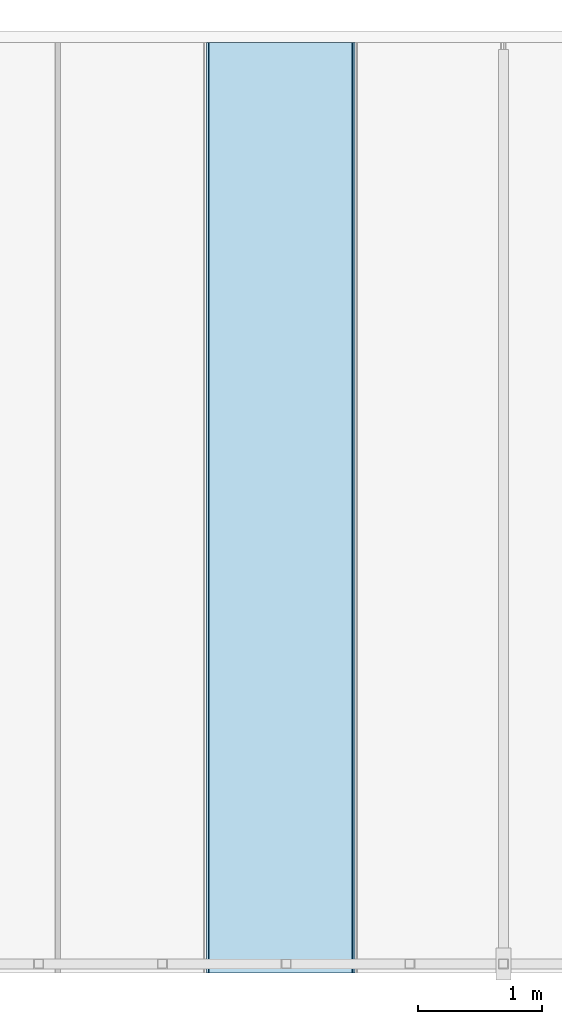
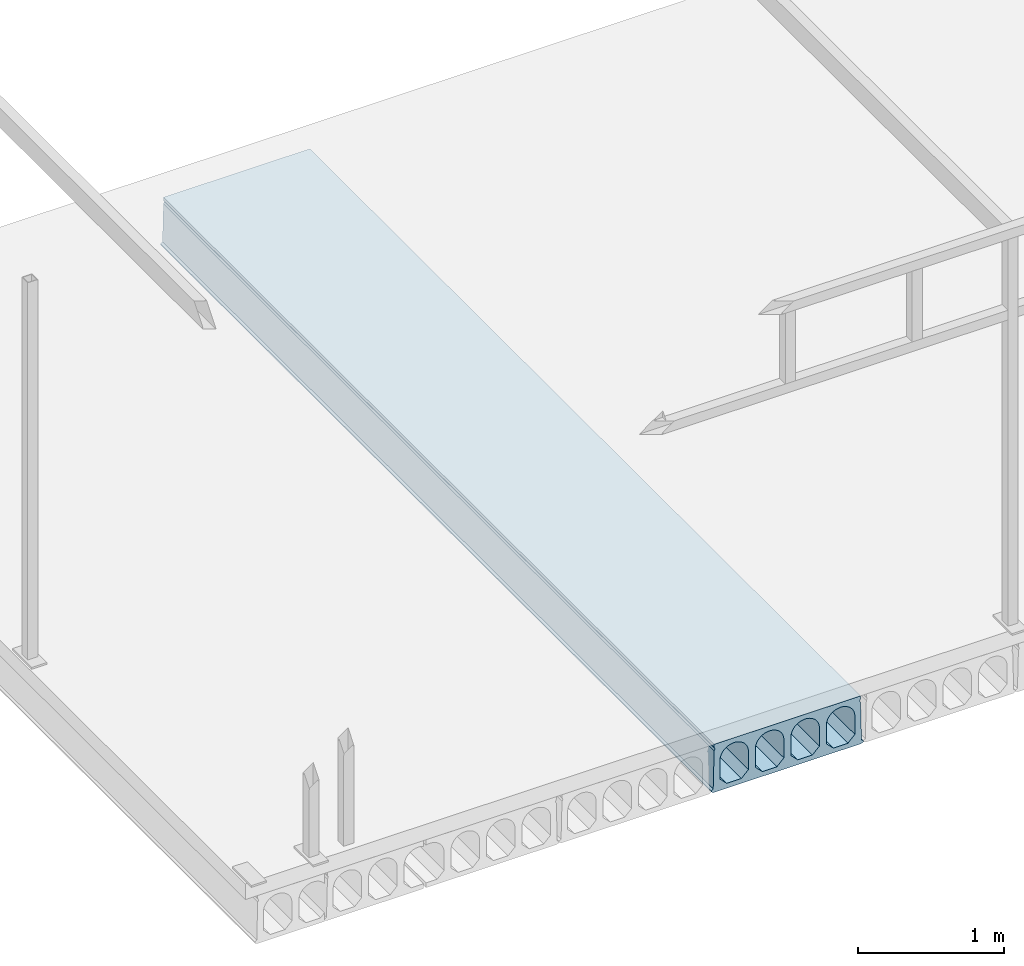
# One storey, part 9 of 20: 1 slab.
"""IFC2X3 building model written with IfcOpenShell, lengths in millimetres."""

from ifc_helpers import new_model, entity, si_unit, converted_unit, derived_unit, direction, frame, origin_with_axes, place, context, subcontext, project, spatial, faceted_brep, type_object, element, save


model = new_model("IFC2X3")

# Units and contexts
model_context = context("Model", 3, precision=0.01, world=frame((0.0, 4.29681676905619e-09, 0.0)), true_north=direction((4.01073788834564e-13, 1.0)))
plan_context = context("Plan", 3, precision=0.01, world=frame((0.0, 4.29681676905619e-09, 0.0)), true_north=direction((4.01073788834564e-13, 1.0)))
body_context = subcontext(model_context, "Body", "Model", "MODEL_VIEW")
ifc_project = project(units=[converted_unit("PLANEANGLEUNIT", "DEGREE", entity("IfcPositiveLengthMeasure", 0.0174532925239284), si_unit("PLANEANGLEUNIT", "RADIAN"), dimensions=[0, 0, 0, 0, 0, 0, 0]), si_unit("AREAUNIT", "SQUARE_METRE"), si_unit("LENGTHUNIT", "METRE", prefix="MILLI"), si_unit("MASSUNIT", "GRAM", prefix="KILO"), si_unit("POWERUNIT", "WATT"), si_unit("PRESSUREUNIT", "PASCAL", prefix="KILO"), si_unit("FORCEUNIT", "NEWTON", prefix="KILO"), si_unit("ELECTRICVOLTAGEUNIT", "VOLT"), si_unit("ELECTRICCURRENTUNIT", "AMPERE"), si_unit("THERMODYNAMICTEMPERATUREUNIT", "DEGREE_CELSIUS"), si_unit("TIMEUNIT", "SECOND"), si_unit("VOLUMEUNIT", "CUBIC_METRE"), derived_unit("LINEARVELOCITYUNIT", [(si_unit("LENGTHUNIT", "METRE"), 1), (si_unit("TIMEUNIT", "SECOND"), -1)]), derived_unit("VOLUMETRICFLOWRATEUNIT", [(si_unit("VOLUMEUNIT", "CUBIC_METRE"), 1), (si_unit("TIMEUNIT", "SECOND"), -1)]), derived_unit("THERMALTRANSMITTANCEUNIT", [(si_unit("POWERUNIT", "WATT"), 1), (si_unit("THERMODYNAMICTEMPERATUREUNIT", "KELVIN"), -1), (si_unit("AREAUNIT", "SQUARE_METRE"), -1)]), derived_unit("SOUNDPRESSUREUNIT", [(si_unit("PRESSUREUNIT", "PASCAL"), 1)])], contexts=[model_context, plan_context])

# Site, building, storey
site_placement = place(None, frame((0.0, -4.29681676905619e-09, 0.0), z_axis=(0.0, 0.0, 1.0), x_axis=(1.0, 0.0, 0.0)))
site = spatial("IfcSite", under=ifc_project, at=site_placement, Name="Gardermoen", CompositionType="ELEMENT")
building_placement = place(site_placement, frame((0.0, 4.29681676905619e-09, 0.0), z_axis=(0.0, 0.0, 1.0), x_axis=(1.0, 0.0, 0.0)))
building = spatial("IfcBuilding", under=site, at=building_placement, Name="TS", CompositionType="ELEMENT")
storey_placement = place(building_placement, origin_with_axes())
storey = spatial("IfcBuildingStorey", under=building, at=storey_placement, Name="D", CompositionType="ELEMENT", Elevation=0.0)

# Slab
slab_type = type_object("IfcSlabType", Name="HD400", PredefinedType="NOTDEFINED")
slab_placement = place(storey_placement, frame((599199.999766, 396739.995625, 203600.0), z_axis=(0.0, 0.0, 1.0), x_axis=(0.0, 1.0, 0.0)))
element("IfcSlab", 1, at=slab_placement, inside=storey, type_object=slab_type, Name="HULLDEKKE", ObjectType="HD400", PredefinedType="FLOOR", context=body_context, shape_type="Brep", body=[
    faceted_brep([(996.504375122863, 600.0, -180.0), (996.504375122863, 600.0, -190.0), (8520.0, 600.0, -190.0), (8520.0, 600.0, -180.0), (996.504375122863, 585.0, -170.0), (8520.0, 585.0, -170.0), (996.504375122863, 577.5, 145.0), (8520.0, 577.5, 145.0), (996.504375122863, 570.0, 160.0), (8520.0, 570.0, 160.0), (996.504375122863, 577.5, 175.0), (8520.0, 577.5, 175.0), (996.504375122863, 577.5, 200.0), (8520.0, 577.5, 200.0), (996.504375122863, -577.5, 200.0), (8520.0, -577.5, 200.0), (996.504375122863, -577.5, 175.0), (8520.0, -577.5, 175.0), (996.504375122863, -570.0, 160.0), (8520.0, -570.0, 160.0), (996.504375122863, -577.5, 145.0), (8520.0, -577.5, 145.0), (996.504375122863, -585.0, -170.0), (8520.0, -585.0, -170.0), (996.504375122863, -600.0, -180.0), (8520.0, -600.0, -180.0), (996.504375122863, -600.0, -190.0), (8520.0, -600.0, -190.0), (996.504375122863, -583.380004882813, -200.0), (8520.0, -583.380004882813, -200.0), (996.504375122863, 583.380004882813, -200.0), (8520.0, 583.380004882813, -200.0), (996.504375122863, -477.5, -160.0), (996.504375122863, -362.5, -160.0), (8520.0, -362.5, -160.0), (8520.0, -477.5, -160.0), (996.504375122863, -532.5, -105.0), (8520.0, -532.5, -105.0), (996.504375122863, -532.5, 47.5), (8520.0, -532.5, 47.5), (996.504375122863, -532.115755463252, 56.7901763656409), (8520.0, -532.115755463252, 56.7901763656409), (996.504375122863, -530.965646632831, 66.0168914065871), (8520.0, -530.965646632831, 66.0168914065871), (996.504375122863, -529.057529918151, 75.1171173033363), (8520.0, -529.057529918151, 75.1171173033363), (996.504375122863, -526.404439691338, 84.028690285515), (8520.0, -526.404439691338, 84.028690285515), (996.504375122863, -523.024499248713, 92.6907352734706), (8520.0, -523.024499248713, 92.6907352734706), (996.504375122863, -518.940797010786, 101.044081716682), (8520.0, -518.940797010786, 101.044081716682), (996.504375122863, -514.181228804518, 109.031667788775), (8520.0, -514.181228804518, 109.031667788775), (996.504375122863, -508.778307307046, 116.598930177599), (8520.0, -508.778307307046, 116.598930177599), (996.504375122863, -502.768939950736, 123.694176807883), (8520.0, -502.768939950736, 123.694176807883), (996.504375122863, -496.194176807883, 130.268939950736), (8520.0, -496.194176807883, 130.268939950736), (996.504375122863, -489.098930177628, 136.278307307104), (8520.0, -489.098930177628, 136.278307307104), (996.504375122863, -481.531667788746, 141.681228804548), (8520.0, -481.531667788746, 141.681228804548), (996.504375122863, -473.544081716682, 146.440797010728), (8520.0, -473.544081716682, 146.440797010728), (996.504375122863, -465.190735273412, 150.524499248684), (8520.0, -465.190735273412, 150.524499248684), (996.504375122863, -456.528690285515, 153.904439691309), (8520.0, -456.528690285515, 153.904439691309), (996.504375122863, -447.617117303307, 156.55752991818), (8520.0, -447.617117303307, 156.55752991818), (996.504375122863, -438.516891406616, 158.465646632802), (8520.0, -438.516891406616, 158.465646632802), (996.504375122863, -429.290176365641, 159.615755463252), (8520.0, -429.290176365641, 159.615755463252), (996.504375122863, -420.0, 160.0), (8520.0, -420.0, 160.0), (996.504375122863, -410.709823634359, 159.615755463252), (8520.0, -410.709823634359, 159.615755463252), (996.504375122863, -401.483108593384, 158.465646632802), (8520.0, -401.483108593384, 158.465646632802), (996.504375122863, -392.382882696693, 156.55752991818), (8520.0, -392.382882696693, 156.55752991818), (996.504375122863, -383.471309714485, 153.904439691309), (8520.0, -383.471309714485, 153.904439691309), (996.504375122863, -374.809264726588, 150.524499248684), (8520.0, -374.809264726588, 150.524499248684), (996.504375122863, -366.455918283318, 146.440797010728), (8520.0, -366.455918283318, 146.440797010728), (996.504375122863, -358.468332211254, 141.681228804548), (8520.0, -358.468332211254, 141.681228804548), (996.504375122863, -350.901069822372, 136.278307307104), (8520.0, -350.901069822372, 136.278307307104), (996.504375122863, -343.805823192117, 130.268939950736), (8520.0, -343.805823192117, 130.268939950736), (996.504375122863, -337.231060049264, 123.694176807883), (8520.0, -337.231060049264, 123.694176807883), (996.504375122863, -331.221692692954, 116.598930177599), (8520.0, -331.221692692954, 116.598930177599), (996.504375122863, -325.818771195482, 109.031667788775), (8520.0, -325.818771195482, 109.031667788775), (996.504375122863, -321.059202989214, 101.044081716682), (8520.0, -321.059202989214, 101.044081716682), (996.504375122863, -316.975500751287, 92.6907352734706), (8520.0, -316.975500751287, 92.6907352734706), (996.504375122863, -313.595560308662, 84.028690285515), (8520.0, -313.595560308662, 84.028690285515), (996.504375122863, -310.942470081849, 75.1171173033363), (8520.0, -310.942470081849, 75.1171173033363), (996.504375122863, -309.034353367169, 66.0168914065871), (8520.0, -309.034353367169, 66.0168914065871), (996.504375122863, -307.884244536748, 56.7901763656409), (8520.0, -307.884244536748, 56.7901763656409), (996.504375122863, -307.5, 47.5), (8520.0, -307.5, 47.5), (996.504375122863, -307.5, -105.0), (8520.0, -307.5, -105.0), (996.504375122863, -197.5, -160.0), (996.504375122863, -82.5, -160.0), (8520.0, -82.5, -160.0), (8520.0, -197.5, -160.0), (996.504375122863, -252.5, -105.0), (8520.0, -252.5, -105.0), (996.504375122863, -252.5, 47.5), (8520.0, -252.5, 47.5), (996.504375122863, -252.115755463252, 56.7901763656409), (8520.0, -252.115755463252, 56.7901763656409), (996.504375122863, -250.965646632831, 66.0168914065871), (8520.0, -250.965646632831, 66.0168914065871), (996.504375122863, -249.057529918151, 75.1171173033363), (8520.0, -249.057529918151, 75.1171173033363), (996.504375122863, -246.404439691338, 84.028690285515), (8520.0, -246.404439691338, 84.028690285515), (996.504375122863, -243.024499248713, 92.6907352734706), (8520.0, -243.024499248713, 92.6907352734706), (996.504375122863, -238.940797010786, 101.044081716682), (8520.0, -238.940797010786, 101.044081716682), (996.504375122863, -234.181228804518, 109.031667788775), (8520.0, -234.181228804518, 109.031667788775), (996.504375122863, -228.778307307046, 116.598930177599), (8520.0, -228.778307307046, 116.598930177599), (996.504375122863, -222.768939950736, 123.694176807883), (8520.0, -222.768939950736, 123.694176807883), (996.504375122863, -216.194176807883, 130.268939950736), (8520.0, -216.194176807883, 130.268939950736), (996.504375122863, -209.098930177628, 136.278307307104), (8520.0, -209.098930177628, 136.278307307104), (996.504375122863, -201.531667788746, 141.681228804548), (8520.0, -201.531667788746, 141.681228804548), (996.504375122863, -193.544081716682, 146.440797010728), (8520.0, -193.544081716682, 146.440797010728), (996.504375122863, -185.190735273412, 150.524499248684), (8520.0, -185.190735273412, 150.524499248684), (996.504375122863, -176.528690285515, 153.904439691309), (8520.0, -176.528690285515, 153.904439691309), (996.504375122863, -167.617117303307, 156.55752991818), (8520.0, -167.617117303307, 156.55752991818), (996.504375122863, -158.516891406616, 158.465646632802), (8520.0, -158.516891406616, 158.465646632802), (996.504375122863, -149.290176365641, 159.615755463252), (8520.0, -149.290176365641, 159.615755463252), (996.504375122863, -140.0, 160.0), (8520.0, -140.0, 160.0), (996.504375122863, -130.709823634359, 159.615755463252), (8520.0, -130.709823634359, 159.615755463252), (996.504375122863, -121.483108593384, 158.465646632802), (8520.0, -121.483108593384, 158.465646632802), (996.504375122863, -112.382882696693, 156.55752991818), (8520.0, -112.382882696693, 156.55752991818), (996.504375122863, -103.471309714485, 153.904439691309), (8520.0, -103.471309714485, 153.904439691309), (996.504375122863, -94.8092647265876, 150.524499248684), (8520.0, -94.8092647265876, 150.524499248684), (996.504375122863, -86.4559182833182, 146.440797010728), (8520.0, -86.4559182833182, 146.440797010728), (996.504375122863, -78.4683322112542, 141.681228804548), (8520.0, -78.4683322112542, 141.681228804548), (996.504375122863, -70.9010698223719, 136.278307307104), (8520.0, -70.9010698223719, 136.278307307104), (996.504375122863, -63.8058231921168, 130.268939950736), (8520.0, -63.8058231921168, 130.268939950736), (996.504375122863, -57.2310600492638, 123.694176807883), (8520.0, -57.2310600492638, 123.694176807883), (996.504375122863, -51.2216926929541, 116.598930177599), (8520.0, -51.2216926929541, 116.598930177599), (996.504375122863, -45.8187711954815, 109.031667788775), (8520.0, -45.8187711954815, 109.031667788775), (996.504375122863, -41.0592029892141, 101.044081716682), (8520.0, -41.0592029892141, 101.044081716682), (996.504375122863, -36.9755007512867, 92.6907352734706), (8520.0, -36.9755007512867, 92.6907352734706), (996.504375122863, -33.5955603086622, 84.028690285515), (8520.0, -33.5955603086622, 84.028690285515), (996.504375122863, -30.942470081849, 75.1171173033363), (8520.0, -30.942470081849, 75.1171173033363), (996.504375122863, -29.0343533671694, 66.0168914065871), (8520.0, -29.0343533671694, 66.0168914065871), (996.504375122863, -27.8842445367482, 56.7901763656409), (8520.0, -27.8842445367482, 56.7901763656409), (996.504375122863, -27.5, 47.5), (8520.0, -27.5, 47.5), (996.504375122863, -27.5, -105.0), (8520.0, -27.5, -105.0), (996.504375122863, 82.5, -160.0), (996.504375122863, 197.5, -160.0), (8520.0, 197.5, -160.0), (8520.0, 82.5, -160.0), (996.504375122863, 27.5, -105.0), (8520.0, 27.5, -105.0), (996.504375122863, 27.5, 47.5), (8520.0, 27.5, 47.5), (996.504375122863, 27.8842445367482, 56.7901763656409), (8520.0, 27.8842445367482, 56.7901763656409), (996.504375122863, 29.0343533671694, 66.0168914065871), (8520.0, 29.0343533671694, 66.0168914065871), (996.504375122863, 30.942470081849, 75.1171173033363), (8520.0, 30.942470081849, 75.1171173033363), (996.504375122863, 33.5955603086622, 84.028690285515), (8520.0, 33.5955603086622, 84.028690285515), (996.504375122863, 36.9755007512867, 92.6907352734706), (8520.0, 36.9755007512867, 92.6907352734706), (996.504375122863, 41.0592029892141, 101.044081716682), (8520.0, 41.0592029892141, 101.044081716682), (996.504375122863, 45.8187711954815, 109.031667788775), (8520.0, 45.8187711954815, 109.031667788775), (996.504375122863, 51.2216926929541, 116.598930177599), (8520.0, 51.2216926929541, 116.598930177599), (996.504375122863, 57.2310600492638, 123.694176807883), (8520.0, 57.2310600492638, 123.694176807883), (996.504375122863, 63.8058231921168, 130.268939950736), (8520.0, 63.8058231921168, 130.268939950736), (996.504375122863, 70.9010698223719, 136.278307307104), (8520.0, 70.9010698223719, 136.278307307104), (996.504375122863, 78.4683322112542, 141.681228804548), (8520.0, 78.4683322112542, 141.681228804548), (996.504375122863, 86.4559182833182, 146.440797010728), (8520.0, 86.4559182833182, 146.440797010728), (996.504375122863, 94.8092647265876, 150.524499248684), (8520.0, 94.8092647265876, 150.524499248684), (996.504375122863, 103.471309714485, 153.904439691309), (8520.0, 103.471309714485, 153.904439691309), (996.504375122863, 112.382882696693, 156.55752991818), (8520.0, 112.382882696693, 156.55752991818), (996.504375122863, 121.483108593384, 158.465646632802), (8520.0, 121.483108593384, 158.465646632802), (996.504375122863, 130.709823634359, 159.615755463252), (8520.0, 130.709823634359, 159.615755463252), (996.504375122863, 140.0, 160.0), (8520.0, 140.0, 160.0), (996.504375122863, 149.290176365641, 159.615755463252), (8520.0, 149.290176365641, 159.615755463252), (996.504375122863, 158.516891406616, 158.465646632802), (8520.0, 158.516891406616, 158.465646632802), (996.504375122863, 167.617117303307, 156.55752991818), (8520.0, 167.617117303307, 156.55752991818), (996.504375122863, 176.528690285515, 153.904439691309), (8520.0, 176.528690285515, 153.904439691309), (996.504375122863, 185.190735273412, 150.524499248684), (8520.0, 185.190735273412, 150.524499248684), (996.504375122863, 193.544081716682, 146.440797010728), (8520.0, 193.544081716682, 146.440797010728), (996.504375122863, 201.531667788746, 141.681228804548), (8520.0, 201.531667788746, 141.681228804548), (996.504375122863, 209.098930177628, 136.278307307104), (8520.0, 209.098930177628, 136.278307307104), (996.504375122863, 216.194176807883, 130.268939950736), (8520.0, 216.194176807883, 130.268939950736), (996.504375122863, 222.768939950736, 123.694176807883), (8520.0, 222.768939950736, 123.694176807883), (996.504375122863, 228.778307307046, 116.598930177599), (8520.0, 228.778307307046, 116.598930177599), (996.504375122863, 234.181228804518, 109.031667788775), (8520.0, 234.181228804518, 109.031667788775), (996.504375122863, 238.940797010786, 101.044081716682), (8520.0, 238.940797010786, 101.044081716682), (996.504375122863, 243.024499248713, 92.6907352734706), (8520.0, 243.024499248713, 92.6907352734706), (996.504375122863, 246.404439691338, 84.028690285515), (8520.0, 246.404439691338, 84.028690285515), (996.504375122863, 249.057529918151, 75.1171173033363), (8520.0, 249.057529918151, 75.1171173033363), (996.504375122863, 250.965646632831, 66.0168914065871), (8520.0, 250.965646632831, 66.0168914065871), (996.504375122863, 252.115755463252, 56.7901763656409), (8520.0, 252.115755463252, 56.7901763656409), (996.504375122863, 252.5, 47.5), (8520.0, 252.5, 47.5), (996.504375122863, 252.5, -105.0), (8520.0, 252.5, -105.0), (996.504375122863, 362.5, -160.0), (996.504375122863, 477.5, -160.0), (8520.0, 477.5, -160.0), (8520.0, 362.5, -160.0), (996.504375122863, 307.5, -105.0), (8520.0, 307.5, -105.0), (996.504375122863, 307.5, 47.5), (8520.0, 307.5, 47.5), (996.504375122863, 307.884244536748, 56.7901763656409), (8520.0, 307.884244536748, 56.7901763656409), (996.504375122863, 309.034353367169, 66.0168914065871), (8520.0, 309.034353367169, 66.0168914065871), (996.504375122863, 310.942470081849, 75.1171173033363), (8520.0, 310.942470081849, 75.1171173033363), (996.504375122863, 313.595560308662, 84.028690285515), (8520.0, 313.595560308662, 84.028690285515), (996.504375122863, 316.975500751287, 92.6907352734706), (8520.0, 316.975500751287, 92.6907352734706), (996.504375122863, 321.059202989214, 101.044081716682), (8520.0, 321.059202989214, 101.044081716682), (996.504375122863, 325.818771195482, 109.031667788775), (8520.0, 325.818771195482, 109.031667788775), (996.504375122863, 331.221692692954, 116.598930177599), (8520.0, 331.221692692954, 116.598930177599), (996.504375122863, 337.231060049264, 123.694176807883), (8520.0, 337.231060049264, 123.694176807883), (996.504375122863, 343.805823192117, 130.268939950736), (8520.0, 343.805823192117, 130.268939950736), (996.504375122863, 350.901069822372, 136.278307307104), (8520.0, 350.901069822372, 136.278307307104), (996.504375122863, 358.468332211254, 141.681228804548), (8520.0, 358.468332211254, 141.681228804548), (996.504375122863, 366.455918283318, 146.440797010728), (8520.0, 366.455918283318, 146.440797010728), (996.504375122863, 374.809264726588, 150.524499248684), (8520.0, 374.809264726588, 150.524499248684), (996.504375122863, 383.471309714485, 153.904439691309), (8520.0, 383.471309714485, 153.904439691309), (996.504375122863, 392.382882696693, 156.55752991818), (8520.0, 392.382882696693, 156.55752991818), (996.504375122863, 401.483108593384, 158.465646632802), (8520.0, 401.483108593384, 158.465646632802), (996.504375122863, 410.709823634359, 159.615755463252), (8520.0, 410.709823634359, 159.615755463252), (996.504375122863, 420.0, 160.0), (8520.0, 420.0, 160.0), (996.504375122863, 429.290176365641, 159.615755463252), (8520.0, 429.290176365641, 159.615755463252), (996.504375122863, 438.516891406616, 158.465646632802), (8520.0, 438.516891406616, 158.465646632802), (996.504375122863, 447.617117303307, 156.55752991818), (8520.0, 447.617117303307, 156.55752991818), (996.504375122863, 456.528690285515, 153.904439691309), (8520.0, 456.528690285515, 153.904439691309), (996.504375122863, 465.190735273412, 150.524499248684), (8520.0, 465.190735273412, 150.524499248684), (996.504375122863, 473.544081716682, 146.440797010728), (8520.0, 473.544081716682, 146.440797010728), (996.504375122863, 481.531667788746, 141.681228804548), (8520.0, 481.531667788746, 141.681228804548), (996.504375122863, 489.098930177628, 136.278307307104), (8520.0, 489.098930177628, 136.278307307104), (996.504375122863, 496.194176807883, 130.268939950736), (8520.0, 496.194176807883, 130.268939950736), (996.504375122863, 502.768939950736, 123.694176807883), (8520.0, 502.768939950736, 123.694176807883), (996.504375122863, 508.778307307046, 116.598930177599), (8520.0, 508.778307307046, 116.598930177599), (996.504375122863, 514.181228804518, 109.031667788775), (8520.0, 514.181228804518, 109.031667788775), (996.504375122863, 518.940797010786, 101.044081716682), (8520.0, 518.940797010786, 101.044081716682), (996.504375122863, 523.024499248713, 92.6907352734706), (8520.0, 523.024499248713, 92.6907352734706), (996.504375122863, 526.404439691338, 84.028690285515), (8520.0, 526.404439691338, 84.028690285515), (996.504375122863, 529.057529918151, 75.1171173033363), (8520.0, 529.057529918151, 75.1171173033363), (996.504375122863, 530.965646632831, 66.0168914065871), (8520.0, 530.965646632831, 66.0168914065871), (996.504375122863, 532.115755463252, 56.7901763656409), (8520.0, 532.115755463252, 56.7901763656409), (996.504375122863, 532.5, 47.5), (8520.0, 532.5, 47.5), (996.504375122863, 532.5, -105.0), (8520.0, 532.5, -105.0)], [[[0, 1, 2, 3]], [[4, 0, 3, 5]], [[6, 4, 5, 7]], [[8, 6, 7, 9]], [[10, 8, 9, 11]], [[12, 10, 11, 13]], [[14, 12, 13, 15]], [[16, 14, 15, 17]], [[18, 16, 17, 19]], [[20, 18, 19, 21]], [[22, 20, 21, 23]], [[24, 22, 23, 25]], [[26, 24, 25, 27]], [[28, 26, 27, 29]], [[30, 28, 29, 31]], [[1, 30, 31, 2]], [[32, 33, 34, 35]], [[36, 32, 35, 37]], [[38, 36, 37, 39]], [[40, 38, 39, 41]], [[42, 40, 41, 43]], [[44, 42, 43, 45]], [[46, 44, 45, 47]], [[48, 46, 47, 49]], [[50, 48, 49, 51]], [[52, 50, 51, 53]], [[54, 52, 53, 55]], [[56, 54, 55, 57]], [[58, 56, 57, 59]], [[60, 58, 59, 61]], [[62, 60, 61, 63]], [[64, 62, 63, 65]], [[66, 64, 65, 67]], [[68, 66, 67, 69]], [[70, 68, 69, 71]], [[72, 70, 71, 73]], [[74, 72, 73, 75]], [[76, 74, 75, 77]], [[78, 76, 77, 79]], [[80, 78, 79, 81]], [[82, 80, 81, 83]], [[84, 82, 83, 85]], [[86, 84, 85, 87]], [[88, 86, 87, 89]], [[90, 88, 89, 91]], [[92, 90, 91, 93]], [[94, 92, 93, 95]], [[96, 94, 95, 97]], [[98, 96, 97, 99]], [[100, 98, 99, 101]], [[102, 100, 101, 103]], [[104, 102, 103, 105]], [[106, 104, 105, 107]], [[108, 106, 107, 109]], [[110, 108, 109, 111]], [[112, 110, 111, 113]], [[114, 112, 113, 115]], [[116, 114, 115, 117]], [[33, 116, 117, 34]], [[118, 119, 120, 121]], [[122, 118, 121, 123]], [[124, 122, 123, 125]], [[126, 124, 125, 127]], [[128, 126, 127, 129]], [[130, 128, 129, 131]], [[132, 130, 131, 133]], [[134, 132, 133, 135]], [[136, 134, 135, 137]], [[138, 136, 137, 139]], [[140, 138, 139, 141]], [[142, 140, 141, 143]], [[144, 142, 143, 145]], [[146, 144, 145, 147]], [[148, 146, 147, 149]], [[150, 148, 149, 151]], [[152, 150, 151, 153]], [[154, 152, 153, 155]], [[156, 154, 155, 157]], [[158, 156, 157, 159]], [[160, 158, 159, 161]], [[162, 160, 161, 163]], [[164, 162, 163, 165]], [[166, 164, 165, 167]], [[168, 166, 167, 169]], [[170, 168, 169, 171]], [[172, 170, 171, 173]], [[174, 172, 173, 175]], [[176, 174, 175, 177]], [[178, 176, 177, 179]], [[180, 178, 179, 181]], [[182, 180, 181, 183]], [[184, 182, 183, 185]], [[186, 184, 185, 187]], [[188, 186, 187, 189]], [[190, 188, 189, 191]], [[192, 190, 191, 193]], [[194, 192, 193, 195]], [[196, 194, 195, 197]], [[198, 196, 197, 199]], [[200, 198, 199, 201]], [[202, 200, 201, 203]], [[119, 202, 203, 120]], [[204, 205, 206, 207]], [[208, 204, 207, 209]], [[210, 208, 209, 211]], [[212, 210, 211, 213]], [[214, 212, 213, 215]], [[216, 214, 215, 217]], [[218, 216, 217, 219]], [[220, 218, 219, 221]], [[222, 220, 221, 223]], [[224, 222, 223, 225]], [[226, 224, 225, 227]], [[228, 226, 227, 229]], [[230, 228, 229, 231]], [[232, 230, 231, 233]], [[234, 232, 233, 235]], [[236, 234, 235, 237]], [[238, 236, 237, 239]], [[240, 238, 239, 241]], [[242, 240, 241, 243]], [[244, 242, 243, 245]], [[246, 244, 245, 247]], [[248, 246, 247, 249]], [[250, 248, 249, 251]], [[252, 250, 251, 253]], [[254, 252, 253, 255]], [[256, 254, 255, 257]], [[258, 256, 257, 259]], [[260, 258, 259, 261]], [[262, 260, 261, 263]], [[264, 262, 263, 265]], [[266, 264, 265, 267]], [[268, 266, 267, 269]], [[270, 268, 269, 271]], [[272, 270, 271, 273]], [[274, 272, 273, 275]], [[276, 274, 275, 277]], [[278, 276, 277, 279]], [[280, 278, 279, 281]], [[282, 280, 281, 283]], [[284, 282, 283, 285]], [[286, 284, 285, 287]], [[288, 286, 287, 289]], [[205, 288, 289, 206]], [[290, 291, 292, 293]], [[294, 290, 293, 295]], [[296, 294, 295, 297]], [[298, 296, 297, 299]], [[300, 298, 299, 301]], [[302, 300, 301, 303]], [[304, 302, 303, 305]], [[306, 304, 305, 307]], [[308, 306, 307, 309]], [[310, 308, 309, 311]], [[312, 310, 311, 313]], [[314, 312, 313, 315]], [[316, 314, 315, 317]], [[318, 316, 317, 319]], [[320, 318, 319, 321]], [[322, 320, 321, 323]], [[324, 322, 323, 325]], [[326, 324, 325, 327]], [[328, 326, 327, 329]], [[330, 328, 329, 331]], [[332, 330, 331, 333]], [[334, 332, 333, 335]], [[336, 334, 335, 337]], [[338, 336, 337, 339]], [[340, 338, 339, 341]], [[342, 340, 341, 343]], [[344, 342, 343, 345]], [[346, 344, 345, 347]], [[348, 346, 347, 349]], [[350, 348, 349, 351]], [[352, 350, 351, 353]], [[354, 352, 353, 355]], [[356, 354, 355, 357]], [[358, 356, 357, 359]], [[360, 358, 359, 361]], [[362, 360, 361, 363]], [[364, 362, 363, 365]], [[366, 364, 365, 367]], [[368, 366, 367, 369]], [[370, 368, 369, 371]], [[372, 370, 371, 373]], [[374, 372, 373, 375]], [[291, 374, 375, 292]], [[3, 2, 31, 29, 27, 25, 23, 21, 19, 17, 15, 13, 11, 9, 7, 5], [293, 292, 375, 373, 371, 369, 367, 365, 363, 361, 359, 357, 355, 353, 351, 349, 347, 345, 343, 341, 339, 337, 335, 333, 331, 329, 327, 325, 323, 321, 319, 317, 315, 313, 311, 309, 307, 305, 303, 301, 299, 297, 295], [207, 206, 289, 287, 285, 283, 281, 279, 277, 275, 273, 271, 269, 267, 265, 263, 261, 259, 257, 255, 253, 251, 249, 247, 245, 243, 241, 239, 237, 235, 233, 231, 229, 227, 225, 223, 221, 219, 217, 215, 213, 211, 209], [121, 120, 203, 201, 199, 197, 195, 193, 191, 189, 187, 185, 183, 181, 179, 177, 175, 173, 171, 169, 167, 165, 163, 161, 159, 157, 155, 153, 151, 149, 147, 145, 143, 141, 139, 137, 135, 133, 131, 129, 127, 125, 123], [35, 34, 117, 115, 113, 111, 109, 107, 105, 103, 101, 99, 97, 95, 93, 91, 89, 87, 85, 83, 81, 79, 77, 75, 73, 71, 69, 67, 65, 63, 61, 59, 57, 55, 53, 51, 49, 47, 45, 43, 41, 39, 37]], [[4, 6, 8, 10, 12, 14, 16, 18, 20, 22, 24, 26, 28, 30, 1, 0], [36, 38, 40, 42, 44, 46, 48, 50, 52, 54, 56, 58, 60, 62, 64, 66, 68, 70, 72, 74, 76, 78, 80, 82, 84, 86, 88, 90, 92, 94, 96, 98, 100, 102, 104, 106, 108, 110, 112, 114, 116, 33, 32], [122, 124, 126, 128, 130, 132, 134, 136, 138, 140, 142, 144, 146, 148, 150, 152, 154, 156, 158, 160, 162, 164, 166, 168, 170, 172, 174, 176, 178, 180, 182, 184, 186, 188, 190, 192, 194, 196, 198, 200, 202, 119, 118], [208, 210, 212, 214, 216, 218, 220, 222, 224, 226, 228, 230, 232, 234, 236, 238, 240, 242, 244, 246, 248, 250, 252, 254, 256, 258, 260, 262, 264, 266, 268, 270, 272, 274, 276, 278, 280, 282, 284, 286, 288, 205, 204], [294, 296, 298, 300, 302, 304, 306, 308, 310, 312, 314, 316, 318, 320, 322, 324, 326, 328, 330, 332, 334, 336, 338, 340, 342, 344, 346, 348, 350, 352, 354, 356, 358, 360, 362, 364, 366, 368, 370, 372, 374, 291, 290]]], orient=[[False], [False], [False], [False], [False], [False], [False], [False], [False], [False], [False], [False], [False], [False], [False], [False], [False], [False], [False], [False], [False], [False], [False], [False], [False], [False], [False], [False], [False], [False], [False], [False], [False], [False], [False], [False], [False], [False], [False], [False], [False], [False], [False], [False], [False], [False], [False], [False], [False], [False], [False], [False], [False], [False], [False], [False], [False], [False], [False], [False], [False], [False], [False], [False], [False], [False], [False], [False], [False], [False], [False], [False], [False], [False], [False], [False], [False], [False], [False], [False], [False], [False], [False], [False], [False], [False], [False], [False], [False], [False], [False], [False], [False], [False], [False], [False], [False], [False], [False], [False], [False], [False], [False], [False], [False], [False], [False], [False], [False], [False], [False], [False], [False], [False], [False], [False], [False], [False], [False], [False], [False], [False], [False], [False], [False], [False], [False], [False], [False], [False], [False], [False], [False], [False], [False], [False], [False], [False], [False], [False], [False], [False], [False], [False], [False], [False], [False], [False], [False], [False], [False], [False], [False], [False], [False], [False], [False], [False], [False], [False], [False], [False], [False], [False], [False], [False], [False], [False], [False], [False], [False], [False], [False], [False], [False], [False], [False], [False], [False], [False], [False], [False], [False], [False], [False], [False], [False], [False], [False, False, False, False, False], [False, False, False, False, False]]),
])

save(model, "model.ifc")
